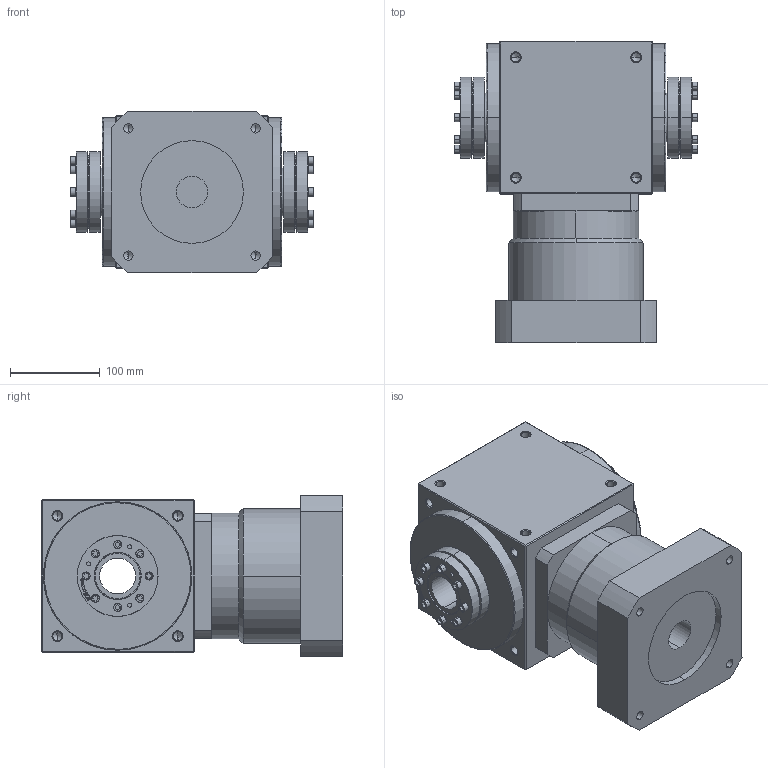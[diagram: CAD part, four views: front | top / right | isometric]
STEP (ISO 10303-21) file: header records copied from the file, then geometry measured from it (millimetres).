
FILE_DESCRIPTION (( 'STEP AP214' ), '1' );
FILE_NAME ('AT170-FC-L1-3KW.STEP', '2020-11-19T09:43:40', ( '微软用户' ), ( '微软中国' ), 'SwSTEP 2.0', 'SolidWorks 2014', '' );
FILE_SCHEMA (( 'AUTOMOTIVE_DESIGN' ));
Length unit declared in the file: millimetre
Products named in the file (6): AT170-FC-L1-3KW_1; AT170-FC-L1-3KW; 83_50x90_2
Assembly tree (3 placements, depth 2):
  AT170-FC-L1-3KW_1
  AT170-FC-L1-3KW
    AT170-FC-L1-3KW_1
    83_50x90_2  x2
  83_50x90_2
  83_50x90_2
Bounding box: 271.2 x 335.5 x 180 mm (x, y, z)
Volume: 8910704.5 mm3; surface area: 466307.3 mm2
Topology: 25 solids, 25 shells, 1220 faces, 2872 edges, 1714 vertices
Faces by surface type: cylinder 532, plane 308, cone 272, torus 64, bspline 44
Entity records: 22108 total; most frequent: CARTESIAN_POINT 5205, DIRECTION 3581, ORIENTED_EDGE 3440, EDGE_CURVE 1720, AXIS2_PLACEMENT_3D 1378, VERTEX_POINT 1041, EDGE_LOOP 847, LINE 825
